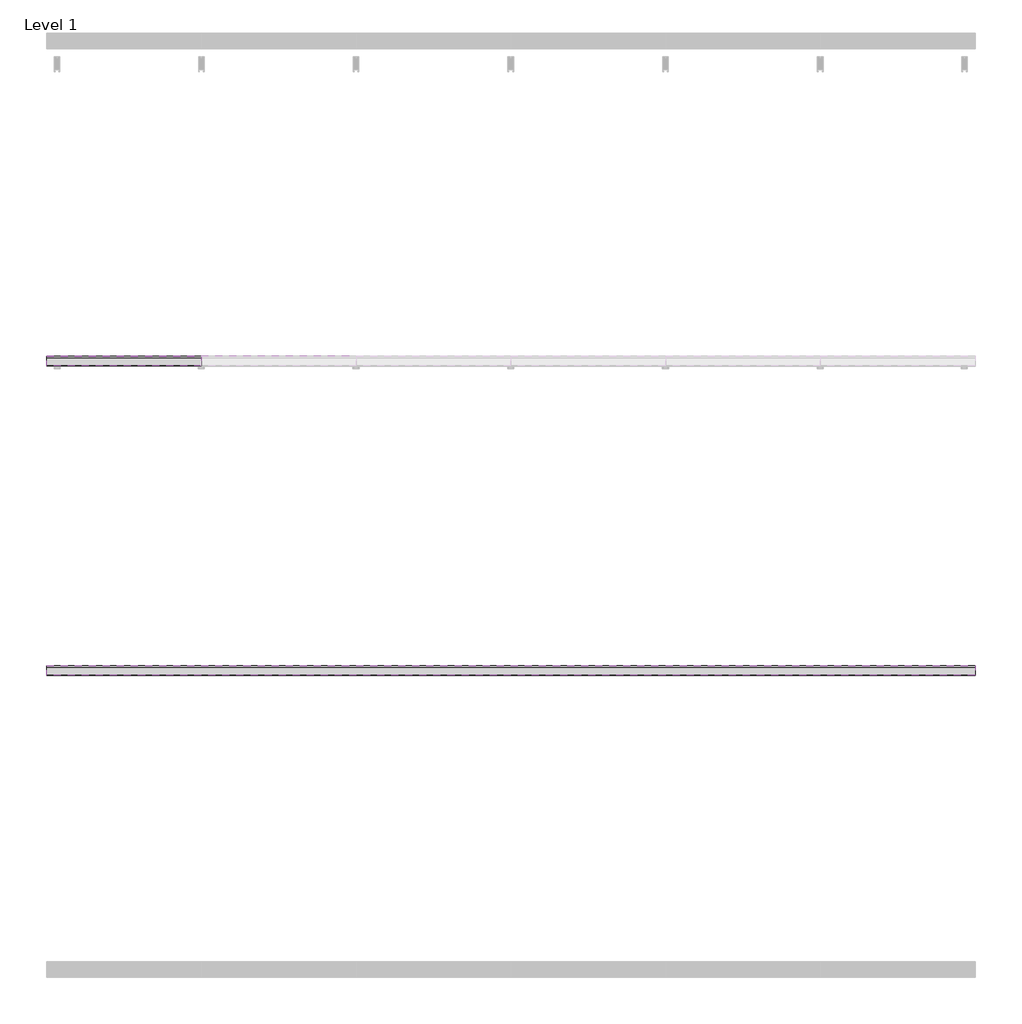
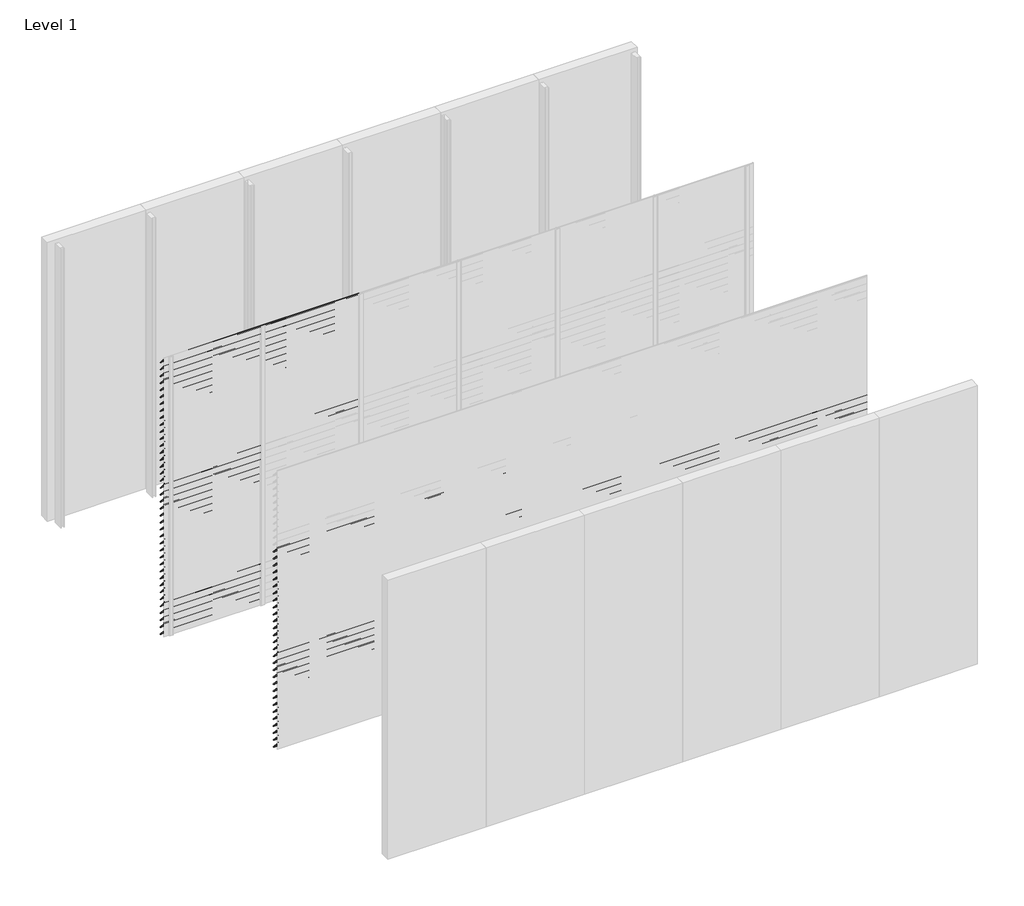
# One storey, part 20 of 35: 86 proxies.
"""IFC4 building model written with IfcOpenShell, lengths in millimetres."""

from ifc_helpers import new_model, si_unit, frame, origin, place, context, project, spatial, polyline, outline, extrude, element, save

model = new_model("IFC4")

# Units and contexts
model_context = context("Model", 3, world=origin())
ifc_project = project(units=[si_unit("LENGTHUNIT", "METRE", prefix="MILLI")], contexts=[model_context])

# Site, building, storey
site = spatial("IfcSite", under=ifc_project)
building = spatial("IfcBuilding", under=site)
storey = spatial("IfcBuildingStorey", under=building, Name="Level 1", Elevation=0.0)

# Proxies
placement = place(None, origin())
element("IfcBuildingElementProxy", 1, Name="Wall Sweeps", at=placement, inside=storey, context=model_context, shape_type="SweptSolid", body=[
    extrude(outline(polyline([(-23996.5, 3000.0), (-23996.5, 2985.5463701), (-23934.5, 2913.9330051), (-23934.5, 2910.4), (-23936.0, 2910.4), (-23936.0, 2913.3738975), (-23998.0, 2984.9872626), (-23998.0, 3000.0), (-23996.5, 3000.0)])), frame((0.0, 0.0, 0.0), z_axis=(1.0, 0.0, 0.0), x_axis=(0.0, 1.0, 0.0)), (0.0, 0.0, 1.0), 1000.0),
])
element("IfcBuildingElementProxy", 2, Name="Wall Sweeps", at=placement, inside=storey, context=model_context, shape_type="SweptSolid", body=[
    extrude(outline(polyline([(-23996.5, 2925.0), (-23996.5, 2910.5463701), (-23934.5, 2838.9330051), (-23934.5, 2835.4), (-23936.0, 2835.4), (-23936.0, 2838.3738975), (-23998.0, 2909.9872626), (-23998.0, 2925.0), (-23996.5, 2925.0)])), frame((0.0, 0.0, 0.0), z_axis=(1.0, 0.0, 0.0), x_axis=(0.0, 1.0, 0.0)), (0.0, 0.0, 1.0), 1000.0),
])
element("IfcBuildingElementProxy", 3, Name="Wall Sweeps", at=placement, inside=storey, context=model_context, shape_type="SweptSolid", body=[
    extrude(outline(polyline([(-23996.5, 2850.0), (-23996.5, 2835.5463701), (-23934.5, 2763.9330051), (-23934.5, 2760.4), (-23936.0, 2760.4), (-23936.0, 2763.3738975), (-23998.0, 2834.9872626), (-23998.0, 2850.0), (-23996.5, 2850.0)])), frame((0.0, 0.0, 0.0), z_axis=(1.0, 0.0, 0.0), x_axis=(0.0, 1.0, 0.0)), (0.0, 0.0, 1.0), 1000.0),
])
element("IfcBuildingElementProxy", 4, Name="Wall Sweeps", at=placement, inside=storey, context=model_context, shape_type="SweptSolid", body=[
    extrude(outline(polyline([(-23996.5, 2775.0), (-23996.5, 2760.5463701), (-23934.5, 2688.9330051), (-23934.5, 2685.4), (-23936.0, 2685.4), (-23936.0, 2688.3738975), (-23998.0, 2759.9872626), (-23998.0, 2775.0), (-23996.5, 2775.0)])), frame((0.0, 0.0, 0.0), z_axis=(1.0, 0.0, 0.0), x_axis=(0.0, 1.0, 0.0)), (0.0, 0.0, 1.0), 1000.0),
])
element("IfcBuildingElementProxy", 5, Name="Wall Sweeps", at=placement, inside=storey, context=model_context, shape_type="SweptSolid", body=[
    extrude(outline(polyline([(-23996.5, 2700.0), (-23996.5, 2685.5463701), (-23934.5, 2613.9330051), (-23934.5, 2610.4), (-23936.0, 2610.4), (-23936.0, 2613.3738975), (-23998.0, 2684.9872626), (-23998.0, 2700.0), (-23996.5, 2700.0)])), frame((0.0, 0.0, 0.0), z_axis=(1.0, 0.0, 0.0), x_axis=(0.0, 1.0, 0.0)), (0.0, 0.0, 1.0), 1000.0),
])
element("IfcBuildingElementProxy", 6, Name="Wall Sweeps", at=placement, inside=storey, context=model_context, shape_type="SweptSolid", body=[
    extrude(outline(polyline([(-23996.5, 2625.0), (-23996.5, 2610.5463701), (-23934.5, 2538.9330051), (-23934.5, 2535.4), (-23936.0, 2535.4), (-23936.0, 2538.3738975), (-23998.0, 2609.9872626), (-23998.0, 2625.0), (-23996.5, 2625.0)])), frame((0.0, 0.0, 0.0), z_axis=(1.0, 0.0, 0.0), x_axis=(0.0, 1.0, 0.0)), (0.0, 0.0, 1.0), 1000.0),
])
element("IfcBuildingElementProxy", 7, Name="Wall Sweeps", at=placement, inside=storey, context=model_context, shape_type="SweptSolid", body=[
    extrude(outline(polyline([(-23996.5, 2550.0), (-23996.5, 2535.5463701), (-23934.5, 2463.9330051), (-23934.5, 2460.4), (-23936.0, 2460.4), (-23936.0, 2463.3738975), (-23998.0, 2534.9872626), (-23998.0, 2550.0), (-23996.5, 2550.0)])), frame((0.0, 0.0, 0.0), z_axis=(1.0, 0.0, 0.0), x_axis=(0.0, 1.0, 0.0)), (0.0, 0.0, 1.0), 1000.0),
])
element("IfcBuildingElementProxy", 8, Name="Wall Sweeps", at=placement, inside=storey, context=model_context, shape_type="SweptSolid", body=[
    extrude(outline(polyline([(-23996.5, 2475.0), (-23996.5, 2460.5463701), (-23934.5, 2388.9330051), (-23934.5, 2385.4), (-23936.0, 2385.4), (-23936.0, 2388.3738975), (-23998.0, 2459.9872626), (-23998.0, 2475.0), (-23996.5, 2475.0)])), frame((0.0, 0.0, 0.0), z_axis=(1.0, 0.0, 0.0), x_axis=(0.0, 1.0, 0.0)), (0.0, 0.0, 1.0), 1000.0),
])
element("IfcBuildingElementProxy", 9, Name="Wall Sweeps", at=placement, inside=storey, context=model_context, shape_type="SweptSolid", body=[
    extrude(outline(polyline([(-23996.5, 2400.0), (-23996.5, 2385.5463701), (-23934.5, 2313.9330051), (-23934.5, 2310.4), (-23936.0, 2310.4), (-23936.0, 2313.3738975), (-23998.0, 2384.9872626), (-23998.0, 2400.0), (-23996.5, 2400.0)])), frame((0.0, 0.0, 0.0), z_axis=(1.0, 0.0, 0.0), x_axis=(0.0, 1.0, 0.0)), (0.0, 0.0, 1.0), 1000.0),
])
element("IfcBuildingElementProxy", 10, Name="Wall Sweeps", at=placement, inside=storey, context=model_context, shape_type="SweptSolid", body=[
    extrude(outline(polyline([(-23996.5, 2325.0), (-23996.5, 2310.5463701), (-23934.5, 2238.9330051), (-23934.5, 2235.4), (-23936.0, 2235.4), (-23936.0, 2238.3738975), (-23998.0, 2309.9872626), (-23998.0, 2325.0), (-23996.5, 2325.0)])), frame((0.0, 0.0, 0.0), z_axis=(1.0, 0.0, 0.0), x_axis=(0.0, 1.0, 0.0)), (0.0, 0.0, 1.0), 1000.0),
])
element("IfcBuildingElementProxy", 11, Name="Wall Sweeps", at=placement, inside=storey, context=model_context, shape_type="SweptSolid", body=[
    extrude(outline(polyline([(-23996.5, 2250.0), (-23996.5, 2235.5463701), (-23934.5, 2163.9330051), (-23934.5, 2160.4), (-23936.0, 2160.4), (-23936.0, 2163.3738975), (-23998.0, 2234.9872626), (-23998.0, 2250.0), (-23996.5, 2250.0)])), frame((0.0, 0.0, 0.0), z_axis=(1.0, 0.0, 0.0), x_axis=(0.0, 1.0, 0.0)), (0.0, 0.0, 1.0), 1000.0),
])
element("IfcBuildingElementProxy", 12, Name="Wall Sweeps", at=placement, inside=storey, context=model_context, shape_type="SweptSolid", body=[
    extrude(outline(polyline([(-23996.5, 2175.0), (-23996.5, 2160.5463701), (-23934.5, 2088.9330051), (-23934.5, 2085.4), (-23936.0, 2085.4), (-23936.0, 2088.3738975), (-23998.0, 2159.9872626), (-23998.0, 2175.0), (-23996.5, 2175.0)])), frame((0.0, 0.0, 0.0), z_axis=(1.0, 0.0, 0.0), x_axis=(0.0, 1.0, 0.0)), (0.0, 0.0, 1.0), 1000.0),
])
element("IfcBuildingElementProxy", 13, Name="Wall Sweeps", at=placement, inside=storey, context=model_context, shape_type="SweptSolid", body=[
    extrude(outline(polyline([(-23996.5, 2100.0), (-23996.5, 2085.5463701), (-23934.5, 2013.9330051), (-23934.5, 2010.4), (-23936.0, 2010.4), (-23936.0, 2013.3738975), (-23998.0, 2084.9872626), (-23998.0, 2100.0), (-23996.5, 2100.0)])), frame((0.0, 0.0, 0.0), z_axis=(1.0, 0.0, 0.0), x_axis=(0.0, 1.0, 0.0)), (0.0, 0.0, 1.0), 1000.0),
])
element("IfcBuildingElementProxy", 14, Name="Wall Sweeps", at=placement, inside=storey, context=model_context, shape_type="SweptSolid", body=[
    extrude(outline(polyline([(-23996.5, 2025.0), (-23996.5, 2010.5463701), (-23934.5, 1938.9330051), (-23934.5, 1935.4), (-23936.0, 1935.4), (-23936.0, 1938.3738975), (-23998.0, 2009.9872626), (-23998.0, 2025.0), (-23996.5, 2025.0)])), frame((0.0, 0.0, 0.0), z_axis=(1.0, 0.0, 0.0), x_axis=(0.0, 1.0, 0.0)), (0.0, 0.0, 1.0), 1000.0),
])
element("IfcBuildingElementProxy", 15, Name="Wall Sweeps", at=placement, inside=storey, context=model_context, shape_type="SweptSolid", body=[
    extrude(outline(polyline([(-23996.5, 1950.0), (-23996.5, 1935.5463701), (-23934.5, 1863.9330051), (-23934.5, 1860.4), (-23936.0, 1860.4), (-23936.0, 1863.3738975), (-23998.0, 1934.9872626), (-23998.0, 1950.0), (-23996.5, 1950.0)])), frame((0.0, 0.0, 0.0), z_axis=(1.0, 0.0, 0.0), x_axis=(0.0, 1.0, 0.0)), (0.0, 0.0, 1.0), 1000.0),
])
element("IfcBuildingElementProxy", 16, Name="Wall Sweeps", at=placement, inside=storey, context=model_context, shape_type="SweptSolid", body=[
    extrude(outline(polyline([(-23996.5, 1875.0), (-23996.5, 1860.5463701), (-23934.5, 1788.9330051), (-23934.5, 1785.4), (-23936.0, 1785.4), (-23936.0, 1788.3738975), (-23998.0, 1859.9872626), (-23998.0, 1875.0), (-23996.5, 1875.0)])), frame((0.0, 0.0, 0.0), z_axis=(1.0, 0.0, 0.0), x_axis=(0.0, 1.0, 0.0)), (0.0, 0.0, 1.0), 1000.0),
])
element("IfcBuildingElementProxy", 17, Name="Wall Sweeps", at=placement, inside=storey, context=model_context, shape_type="SweptSolid", body=[
    extrude(outline(polyline([(-23996.5, 1800.0), (-23996.5, 1785.5463701), (-23934.5, 1713.9330051), (-23934.5, 1710.4), (-23936.0, 1710.4), (-23936.0, 1713.3738975), (-23998.0, 1784.9872626), (-23998.0, 1800.0), (-23996.5, 1800.0)])), frame((0.0, 0.0, 0.0), z_axis=(1.0, 0.0, 0.0), x_axis=(0.0, 1.0, 0.0)), (0.0, 0.0, 1.0), 1000.0),
])
element("IfcBuildingElementProxy", 18, Name="Wall Sweeps", at=placement, inside=storey, context=model_context, shape_type="SweptSolid", body=[
    extrude(outline(polyline([(-23996.5, 1725.0), (-23996.5, 1710.5463701), (-23934.5, 1638.9330051), (-23934.5, 1635.4), (-23936.0, 1635.4), (-23936.0, 1638.3738975), (-23998.0, 1709.9872626), (-23998.0, 1725.0), (-23996.5, 1725.0)])), frame((0.0, 0.0, 0.0), z_axis=(1.0, 0.0, 0.0), x_axis=(0.0, 1.0, 0.0)), (0.0, 0.0, 1.0), 1000.0),
])
element("IfcBuildingElementProxy", 19, Name="Wall Sweeps", at=placement, inside=storey, context=model_context, shape_type="SweptSolid", body=[
    extrude(outline(polyline([(-23996.5, 1650.0), (-23996.5, 1635.5463701), (-23934.5, 1563.9330051), (-23934.5, 1560.4), (-23936.0, 1560.4), (-23936.0, 1563.3738975), (-23998.0, 1634.9872626), (-23998.0, 1650.0), (-23996.5, 1650.0)])), frame((0.0, 0.0, 0.0), z_axis=(1.0, 0.0, 0.0), x_axis=(0.0, 1.0, 0.0)), (0.0, 0.0, 1.0), 1000.0),
])
element("IfcBuildingElementProxy", 20, Name="Wall Sweeps", at=placement, inside=storey, context=model_context, shape_type="SweptSolid", body=[
    extrude(outline(polyline([(-23996.5, 1575.0), (-23996.5, 1560.5463701), (-23934.5, 1488.9330051), (-23934.5, 1485.4), (-23936.0, 1485.4), (-23936.0, 1488.3738975), (-23998.0, 1559.9872626), (-23998.0, 1575.0), (-23996.5, 1575.0)])), frame((0.0, 0.0, 0.0), z_axis=(1.0, 0.0, 0.0), x_axis=(0.0, 1.0, 0.0)), (0.0, 0.0, 1.0), 1000.0),
])
element("IfcBuildingElementProxy", 21, Name="Wall Sweeps", at=placement, inside=storey, context=model_context, shape_type="SweptSolid", body=[
    extrude(outline(polyline([(-23996.5, 1500.0), (-23996.5, 1485.5463701), (-23934.5, 1413.9330051), (-23934.5, 1410.4), (-23936.0, 1410.4), (-23936.0, 1413.3738975), (-23998.0, 1484.9872626), (-23998.0, 1500.0), (-23996.5, 1500.0)])), frame((0.0, 0.0, 0.0), z_axis=(1.0, 0.0, 0.0), x_axis=(0.0, 1.0, 0.0)), (0.0, 0.0, 1.0), 1000.0),
])
element("IfcBuildingElementProxy", 22, Name="Wall Sweeps", at=placement, inside=storey, context=model_context, shape_type="SweptSolid", body=[
    extrude(outline(polyline([(-23996.5, 1425.0), (-23996.5, 1410.5463701), (-23934.5, 1338.9330051), (-23934.5, 1335.4), (-23936.0, 1335.4), (-23936.0, 1338.3738975), (-23998.0, 1409.9872626), (-23998.0, 1425.0), (-23996.5, 1425.0)])), frame((0.0, 0.0, 0.0), z_axis=(1.0, 0.0, 0.0), x_axis=(0.0, 1.0, 0.0)), (0.0, 0.0, 1.0), 1000.0),
])
element("IfcBuildingElementProxy", 23, Name="Wall Sweeps", at=placement, inside=storey, context=model_context, shape_type="SweptSolid", body=[
    extrude(outline(polyline([(-23996.5, 1350.0), (-23996.5, 1335.5463701), (-23934.5, 1263.9330051), (-23934.5, 1260.4), (-23936.0, 1260.4), (-23936.0, 1263.3738975), (-23998.0, 1334.9872626), (-23998.0, 1350.0), (-23996.5, 1350.0)])), frame((0.0, 0.0, 0.0), z_axis=(1.0, 0.0, 0.0), x_axis=(0.0, 1.0, 0.0)), (0.0, 0.0, 1.0), 1000.0),
])
element("IfcBuildingElementProxy", 24, Name="Wall Sweeps", at=placement, inside=storey, context=model_context, shape_type="SweptSolid", body=[
    extrude(outline(polyline([(-23996.5, 1275.0), (-23996.5, 1260.5463701), (-23934.5, 1188.9330051), (-23934.5, 1185.4), (-23936.0, 1185.4), (-23936.0, 1188.3738975), (-23998.0, 1259.9872626), (-23998.0, 1275.0), (-23996.5, 1275.0)])), frame((0.0, 0.0, 0.0), z_axis=(1.0, 0.0, 0.0), x_axis=(0.0, 1.0, 0.0)), (0.0, 0.0, 1.0), 1000.0),
])
element("IfcBuildingElementProxy", 25, Name="Wall Sweeps", at=placement, inside=storey, context=model_context, shape_type="SweptSolid", body=[
    extrude(outline(polyline([(-23996.5, 1200.0), (-23996.5, 1185.5463701), (-23934.5, 1113.9330051), (-23934.5, 1110.4), (-23936.0, 1110.4), (-23936.0, 1113.3738975), (-23998.0, 1184.9872626), (-23998.0, 1200.0), (-23996.5, 1200.0)])), frame((0.0, 0.0, 0.0), z_axis=(1.0, 0.0, 0.0), x_axis=(0.0, 1.0, 0.0)), (0.0, 0.0, 1.0), 1000.0),
])
element("IfcBuildingElementProxy", 26, Name="Wall Sweeps", at=placement, inside=storey, context=model_context, shape_type="SweptSolid", body=[
    extrude(outline(polyline([(-23996.5, 1125.0), (-23996.5, 1110.5463701), (-23934.5, 1038.9330051), (-23934.5, 1035.4), (-23936.0, 1035.4), (-23936.0, 1038.3738975), (-23998.0, 1109.9872626), (-23998.0, 1125.0), (-23996.5, 1125.0)])), frame((0.0, 0.0, 0.0), z_axis=(1.0, 0.0, 0.0), x_axis=(0.0, 1.0, 0.0)), (0.0, 0.0, 1.0), 1000.0),
])
element("IfcBuildingElementProxy", 27, Name="Wall Sweeps", at=placement, inside=storey, context=model_context, shape_type="SweptSolid", body=[
    extrude(outline(polyline([(-23996.5, 1050.0), (-23996.5, 1035.5463701), (-23934.5, 963.9330051), (-23934.5, 960.4), (-23936.0, 960.4), (-23936.0, 963.3738975), (-23998.0, 1034.9872626), (-23998.0, 1050.0), (-23996.5, 1050.0)])), frame((0.0, 0.0, 0.0), z_axis=(1.0, 0.0, 0.0), x_axis=(0.0, 1.0, 0.0)), (0.0, 0.0, 1.0), 1000.0),
])
element("IfcBuildingElementProxy", 28, Name="Wall Sweeps", at=placement, inside=storey, context=model_context, shape_type="SweptSolid", body=[
    extrude(outline(polyline([(-23996.5, 975.0), (-23996.5, 960.5463701), (-23934.5, 888.9330051), (-23934.5, 885.4), (-23936.0, 885.4), (-23936.0, 888.3738975), (-23998.0, 959.9872626), (-23998.0, 975.0), (-23996.5, 975.0)])), frame((0.0, 0.0, 0.0), z_axis=(1.0, 0.0, 0.0), x_axis=(0.0, 1.0, 0.0)), (0.0, 0.0, 1.0), 1000.0),
])
element("IfcBuildingElementProxy", 29, Name="Wall Sweeps", at=placement, inside=storey, context=model_context, shape_type="SweptSolid", body=[
    extrude(outline(polyline([(-23996.5, 900.0), (-23996.5, 885.5463701), (-23934.5, 813.9330051), (-23934.5, 810.4), (-23936.0, 810.4), (-23936.0, 813.3738975), (-23998.0, 884.9872626), (-23998.0, 900.0), (-23996.5, 900.0)])), frame((0.0, 0.0, 0.0), z_axis=(1.0, 0.0, 0.0), x_axis=(0.0, 1.0, 0.0)), (0.0, 0.0, 1.0), 1000.0),
])
element("IfcBuildingElementProxy", 30, Name="Wall Sweeps", at=placement, inside=storey, context=model_context, shape_type="SweptSolid", body=[
    extrude(outline(polyline([(-23996.5, 825.0), (-23996.5, 810.5463701), (-23934.5, 738.9330051), (-23934.5, 735.4), (-23936.0, 735.4), (-23936.0, 738.3738975), (-23998.0, 809.9872626), (-23998.0, 825.0), (-23996.5, 825.0)])), frame((0.0, 0.0, 0.0), z_axis=(1.0, 0.0, 0.0), x_axis=(0.0, 1.0, 0.0)), (0.0, 0.0, 1.0), 1000.0),
])
element("IfcBuildingElementProxy", 31, Name="Wall Sweeps", at=placement, inside=storey, context=model_context, shape_type="SweptSolid", body=[
    extrude(outline(polyline([(-23996.5, 750.0), (-23996.5, 735.5463701), (-23934.5, 663.9330051), (-23934.5, 660.4), (-23936.0, 660.4), (-23936.0, 663.3738975), (-23998.0, 734.9872626), (-23998.0, 750.0), (-23996.5, 750.0)])), frame((0.0, 0.0, 0.0), z_axis=(1.0, 0.0, 0.0), x_axis=(0.0, 1.0, 0.0)), (0.0, 0.0, 1.0), 1000.0),
])
element("IfcBuildingElementProxy", 32, Name="Wall Sweeps", at=placement, inside=storey, context=model_context, shape_type="SweptSolid", body=[
    extrude(outline(polyline([(-23996.5, 675.0), (-23996.5, 660.5463701), (-23934.5, 588.9330051), (-23934.5, 585.4), (-23936.0, 585.4), (-23936.0, 588.3738975), (-23998.0, 659.9872626), (-23998.0, 675.0), (-23996.5, 675.0)])), frame((0.0, 0.0, 0.0), z_axis=(1.0, 0.0, 0.0), x_axis=(0.0, 1.0, 0.0)), (0.0, 0.0, 1.0), 1000.0),
])
element("IfcBuildingElementProxy", 33, Name="Wall Sweeps", at=placement, inside=storey, context=model_context, shape_type="SweptSolid", body=[
    extrude(outline(polyline([(-23996.5, 600.0), (-23996.5, 585.5463701), (-23934.5, 513.9330051), (-23934.5, 510.4), (-23936.0, 510.4), (-23936.0, 513.3738975), (-23998.0, 584.9872626), (-23998.0, 600.0), (-23996.5, 600.0)])), frame((0.0, 0.0, 0.0), z_axis=(1.0, 0.0, 0.0), x_axis=(0.0, 1.0, 0.0)), (0.0, 0.0, 1.0), 1000.0),
])
element("IfcBuildingElementProxy", 34, Name="Wall Sweeps", at=placement, inside=storey, context=model_context, shape_type="SweptSolid", body=[
    extrude(outline(polyline([(-23996.5, 525.0), (-23996.5, 510.5463701), (-23934.5, 438.9330051), (-23934.5, 435.4), (-23936.0, 435.4), (-23936.0, 438.3738975), (-23998.0, 509.9872626), (-23998.0, 525.0), (-23996.5, 525.0)])), frame((0.0, 0.0, 0.0), z_axis=(1.0, 0.0, 0.0), x_axis=(0.0, 1.0, 0.0)), (0.0, 0.0, 1.0), 1000.0),
])
element("IfcBuildingElementProxy", 35, Name="Wall Sweeps", at=placement, inside=storey, context=model_context, shape_type="SweptSolid", body=[
    extrude(outline(polyline([(-23996.5, 450.0), (-23996.5, 435.5463701), (-23934.5, 363.9330051), (-23934.5, 360.4), (-23936.0, 360.4), (-23936.0, 363.3738975), (-23998.0, 434.9872626), (-23998.0, 450.0), (-23996.5, 450.0)])), frame((0.0, 0.0, 0.0), z_axis=(1.0, 0.0, 0.0), x_axis=(0.0, 1.0, 0.0)), (0.0, 0.0, 1.0), 1000.0),
])
element("IfcBuildingElementProxy", 36, Name="Wall Sweeps", at=placement, inside=storey, context=model_context, shape_type="SweptSolid", body=[
    extrude(outline(polyline([(-23996.5, 375.0), (-23996.5, 360.5463701), (-23934.5, 288.9330051), (-23934.5, 285.4), (-23936.0, 285.4), (-23936.0, 288.3738975), (-23998.0, 359.9872626), (-23998.0, 375.0), (-23996.5, 375.0)])), frame((0.0, 0.0, 0.0), z_axis=(1.0, 0.0, 0.0), x_axis=(0.0, 1.0, 0.0)), (0.0, 0.0, 1.0), 1000.0),
])
element("IfcBuildingElementProxy", 37, Name="Wall Sweeps", at=placement, inside=storey, context=model_context, shape_type="SweptSolid", body=[
    extrude(outline(polyline([(-23996.5, 300.0), (-23996.5, 285.5463701), (-23934.5, 213.9330051), (-23934.5, 210.4), (-23936.0, 210.4), (-23936.0, 213.3738975), (-23998.0, 284.9872626), (-23998.0, 300.0), (-23996.5, 300.0)])), frame((0.0, 0.0, 0.0), z_axis=(1.0, 0.0, 0.0), x_axis=(0.0, 1.0, 0.0)), (0.0, 0.0, 1.0), 1000.0),
])
element("IfcBuildingElementProxy", 38, Name="Wall Sweeps", at=placement, inside=storey, context=model_context, shape_type="SweptSolid", body=[
    extrude(outline(polyline([(-23996.5, 225.0), (-23996.5, 210.5463701), (-23934.5, 138.9330051), (-23934.5, 135.4), (-23936.0, 135.4), (-23936.0, 138.3738975), (-23998.0, 209.9872626), (-23998.0, 225.0), (-23996.5, 225.0)])), frame((0.0, 0.0, 0.0), z_axis=(1.0, 0.0, 0.0), x_axis=(0.0, 1.0, 0.0)), (0.0, 0.0, 1.0), 1000.0),
])
element("IfcBuildingElementProxy", 39, Name="Wall Sweeps", at=placement, inside=storey, context=model_context, shape_type="SweptSolid", body=[
    extrude(outline(polyline([(-23996.5, 150.0), (-23996.5, 135.5463701), (-23934.5, 63.9330051), (-23934.5, 60.4), (-23936.0, 60.4), (-23936.0, 63.3738975), (-23998.0, 134.9872626), (-23998.0, 150.0), (-23996.5, 150.0)])), frame((0.0, 0.0, 0.0), z_axis=(1.0, 0.0, 0.0), x_axis=(0.0, 1.0, 0.0)), (0.0, 0.0, 1.0), 1000.0),
])
element("IfcBuildingElementProxy", 40, Name="Wall Sweeps", at=placement, inside=storey, context=model_context, shape_type="SweptSolid", body=[
    extrude(outline(polyline([(-23996.5, 75.0), (-23996.5, 60.5463701), (-23934.5, -11.0669949), (-23934.5, -14.6), (-23936.0, -14.6), (-23936.0, -11.6261025), (-23998.0, 59.9872626), (-23998.0, 75.0), (-23996.5, 75.0)])), frame((0.0, 0.0, 0.0), z_axis=(1.0, 0.0, 0.0), x_axis=(0.0, 1.0, 0.0)), (0.0, 0.0, 1.0), 1000.0),
])
element("IfcBuildingElementProxy", 41, Name="Wall Sweeps", at=placement, inside=storey, context=model_context, shape_type="SweptSolid", body=[
    extrude(outline(polyline([(-23996.5, 3000.0), (-23996.5, 2985.5463701), (-23934.5, 2913.9330051), (-23934.5, 2910.4), (-23936.0, 2910.4), (-23936.0, 2913.3738975), (-23998.0, 2984.9872626), (-23998.0, 3000.0), (-23996.5, 3000.0)])), frame((1000.0, 0.0, 0.0), z_axis=(1.0, 0.0, 0.0), x_axis=(0.0, 1.0, 0.0)), (0.0, 0.0, 1.0), 1000.0),
])
element("IfcBuildingElementProxy", 42, Name="Wall Sweeps", at=placement, inside=storey, context=model_context, shape_type="SweptSolid", body=[
    extrude(outline(polyline([(-23996.5, 2925.0), (-23996.5, 2910.5463701), (-23934.5, 2838.9330051), (-23934.5, 2835.4), (-23936.0, 2835.4), (-23936.0, 2838.3738975), (-23998.0, 2909.9872626), (-23998.0, 2925.0), (-23996.5, 2925.0)])), frame((1000.0, 0.0, 0.0), z_axis=(1.0, 0.0, 0.0), x_axis=(0.0, 1.0, 0.0)), (0.0, 0.0, 1.0), 1000.0),
])
element("IfcBuildingElementProxy", 43, Name="Wall Sweeps", at=placement, inside=storey, context=model_context, shape_type="SweptSolid", body=[
    extrude(outline(polyline([(-23996.5, 2850.0), (-23996.5, 2835.5463701), (-23934.5, 2763.9330051), (-23934.5, 2760.4), (-23936.0, 2760.4), (-23936.0, 2763.3738975), (-23998.0, 2834.9872626), (-23998.0, 2850.0), (-23996.5, 2850.0)])), frame((1000.0, 0.0, 0.0), z_axis=(1.0, 0.0, 0.0), x_axis=(0.0, 1.0, 0.0)), (0.0, 0.0, 1.0), 1000.0),
])
element("IfcBuildingElementProxy", 44, Name="Wall Sweeps", at=placement, inside=storey, context=model_context, shape_type="SweptSolid", body=[
    extrude(outline(polyline([(-23996.5, 2775.0), (-23996.5, 2760.5463701), (-23934.5, 2688.9330051), (-23934.5, 2685.4), (-23936.0, 2685.4), (-23936.0, 2688.3738975), (-23998.0, 2759.9872626), (-23998.0, 2775.0), (-23996.5, 2775.0)])), frame((1000.0, 0.0, 0.0), z_axis=(1.0, 0.0, 0.0), x_axis=(0.0, 1.0, 0.0)), (0.0, 0.0, 1.0), 1000.0),
])
element("IfcBuildingElementProxy", 45, Name="Wall Sweeps", at=placement, inside=storey, context=model_context, shape_type="SweptSolid", body=[
    extrude(outline(polyline([(-23996.5, 2700.0), (-23996.5, 2685.5463701), (-23934.5, 2613.9330051), (-23934.5, 2610.4), (-23936.0, 2610.4), (-23936.0, 2613.3738975), (-23998.0, 2684.9872626), (-23998.0, 2700.0), (-23996.5, 2700.0)])), frame((1000.0, 0.0, 0.0), z_axis=(1.0, 0.0, 0.0), x_axis=(0.0, 1.0, 0.0)), (0.0, 0.0, 1.0), 1000.0),
])
element("IfcBuildingElementProxy", 46, Name="Wall Sweeps", at=placement, inside=storey, context=model_context, shape_type="SweptSolid", body=[
    extrude(outline(polyline([(-23996.5, 2625.0), (-23996.5, 2610.5463701), (-23934.5, 2538.9330051), (-23934.5, 2535.4), (-23936.0, 2535.4), (-23936.0, 2538.3738975), (-23998.0, 2609.9872626), (-23998.0, 2625.0), (-23996.5, 2625.0)])), frame((1000.0, 0.0, 0.0), z_axis=(1.0, 0.0, 0.0), x_axis=(0.0, 1.0, 0.0)), (0.0, 0.0, 1.0), 1000.0),
])
element("IfcBuildingElementProxy", 47, Name="Wall Sweeps", at=placement, inside=storey, context=model_context, shape_type="SweptSolid", body=[
    extrude(outline(polyline([(-23996.5, 2550.0), (-23996.5, 2535.5463701), (-23934.5, 2463.9330051), (-23934.5, 2460.4), (-23936.0, 2460.4), (-23936.0, 2463.3738975), (-23998.0, 2534.9872626), (-23998.0, 2550.0), (-23996.5, 2550.0)])), frame((1000.0, 0.0, 0.0), z_axis=(1.0, 0.0, 0.0), x_axis=(0.0, 1.0, 0.0)), (0.0, 0.0, 1.0), 1000.0),
])
element("IfcBuildingElementProxy", 48, Name="Wall Sweeps", at=placement, inside=storey, context=model_context, shape_type="SweptSolid", body=[
    extrude(outline(polyline([(-23996.5, 2475.0), (-23996.5, 2460.5463701), (-23934.5, 2388.9330051), (-23934.5, 2385.4), (-23936.0, 2385.4), (-23936.0, 2388.3738975), (-23998.0, 2459.9872626), (-23998.0, 2475.0), (-23996.5, 2475.0)])), frame((1000.0, 0.0, 0.0), z_axis=(1.0, 0.0, 0.0), x_axis=(0.0, 1.0, 0.0)), (0.0, 0.0, 1.0), 1000.0),
])
element("IfcBuildingElementProxy", 49, Name="Wall Sweeps", at=placement, inside=storey, context=model_context, shape_type="SweptSolid", body=[
    extrude(outline(polyline([(-23996.5, 2400.0), (-23996.5, 2385.5463701), (-23934.5, 2313.9330051), (-23934.5, 2310.4), (-23936.0, 2310.4), (-23936.0, 2313.3738975), (-23998.0, 2384.9872626), (-23998.0, 2400.0), (-23996.5, 2400.0)])), frame((1000.0, 0.0, 0.0), z_axis=(1.0, 0.0, 0.0), x_axis=(0.0, 1.0, 0.0)), (0.0, 0.0, 1.0), 1000.0),
])
element("IfcBuildingElementProxy", 50, Name="Wall Sweeps", at=placement, inside=storey, context=model_context, shape_type="SweptSolid", body=[
    extrude(outline(polyline([(-23996.5, 2325.0), (-23996.5, 2310.5463701), (-23934.5, 2238.9330051), (-23934.5, 2235.4), (-23936.0, 2235.4), (-23936.0, 2238.3738975), (-23998.0, 2309.9872626), (-23998.0, 2325.0), (-23996.5, 2325.0)])), frame((1000.0, 0.0, 0.0), z_axis=(1.0, 0.0, 0.0), x_axis=(0.0, 1.0, 0.0)), (0.0, 0.0, 1.0), 1000.0),
])
element("IfcBuildingElementProxy", 51, Name="Wall Sweeps", at=placement, inside=storey, context=model_context, shape_type="SweptSolid", body=[
    extrude(outline(polyline([(-23996.5, 2250.0), (-23996.5, 2235.5463701), (-23934.5, 2163.9330051), (-23934.5, 2160.4), (-23936.0, 2160.4), (-23936.0, 2163.3738975), (-23998.0, 2234.9872626), (-23998.0, 2250.0), (-23996.5, 2250.0)])), frame((1000.0, 0.0, 0.0), z_axis=(1.0, 0.0, 0.0), x_axis=(0.0, 1.0, 0.0)), (0.0, 0.0, 1.0), 1000.0),
])
element("IfcBuildingElementProxy", 52, Name="Wall Sweeps", at=placement, inside=storey, context=model_context, shape_type="SweptSolid", body=[
    extrude(outline(polyline([(-23996.5, 2175.0), (-23996.5, 2160.5463701), (-23934.5, 2088.9330051), (-23934.5, 2085.4), (-23936.0, 2085.4), (-23936.0, 2088.3738975), (-23998.0, 2159.9872626), (-23998.0, 2175.0), (-23996.5, 2175.0)])), frame((1000.0, 0.0, 0.0), z_axis=(1.0, 0.0, 0.0), x_axis=(0.0, 1.0, 0.0)), (0.0, 0.0, 1.0), 1000.0),
])
element("IfcBuildingElementProxy", 53, Name="Wall Sweeps", at=placement, inside=storey, context=model_context, shape_type="SweptSolid", body=[
    extrude(outline(polyline([(-23996.5, 2100.0), (-23996.5, 2085.5463701), (-23934.5, 2013.9330051), (-23934.5, 2010.4), (-23936.0, 2010.4), (-23936.0, 2013.3738975), (-23998.0, 2084.9872626), (-23998.0, 2100.0), (-23996.5, 2100.0)])), frame((1000.0, 0.0, 0.0), z_axis=(1.0, 0.0, 0.0), x_axis=(0.0, 1.0, 0.0)), (0.0, 0.0, 1.0), 1000.0),
])
element("IfcBuildingElementProxy", 54, Name="Wall Sweeps", at=placement, inside=storey, context=model_context, shape_type="SweptSolid", body=[
    extrude(outline(polyline([(-23996.5, 2025.0), (-23996.5, 2010.5463701), (-23934.5, 1938.9330051), (-23934.5, 1935.4), (-23936.0, 1935.4), (-23936.0, 1938.3738975), (-23998.0, 2009.9872626), (-23998.0, 2025.0), (-23996.5, 2025.0)])), frame((1000.0, 0.0, 0.0), z_axis=(1.0, 0.0, 0.0), x_axis=(0.0, 1.0, 0.0)), (0.0, 0.0, 1.0), 1000.0),
])
element("IfcBuildingElementProxy", 55, Name="Wall Sweeps", at=placement, inside=storey, context=model_context, shape_type="SweptSolid", body=[
    extrude(outline(polyline([(-23996.5, 1950.0), (-23996.5, 1935.5463701), (-23934.5, 1863.9330051), (-23934.5, 1860.4), (-23936.0, 1860.4), (-23936.0, 1863.3738975), (-23998.0, 1934.9872626), (-23998.0, 1950.0), (-23996.5, 1950.0)])), frame((1000.0, 0.0, 0.0), z_axis=(1.0, 0.0, 0.0), x_axis=(0.0, 1.0, 0.0)), (0.0, 0.0, 1.0), 1000.0),
])
element("IfcBuildingElementProxy", 56, Name="Wall Sweeps", at=placement, inside=storey, context=model_context, shape_type="SweptSolid", body=[
    extrude(outline(polyline([(-23996.5, 1875.0), (-23996.5, 1860.5463701), (-23934.5, 1788.9330051), (-23934.5, 1785.4), (-23936.0, 1785.4), (-23936.0, 1788.3738975), (-23998.0, 1859.9872626), (-23998.0, 1875.0), (-23996.5, 1875.0)])), frame((1000.0, 0.0, 0.0), z_axis=(1.0, 0.0, 0.0), x_axis=(0.0, 1.0, 0.0)), (0.0, 0.0, 1.0), 1000.0),
])
element("IfcBuildingElementProxy", 57, Name="Wall Sweeps", at=placement, inside=storey, context=model_context, shape_type="SweptSolid", body=[
    extrude(outline(polyline([(-23996.5, 1800.0), (-23996.5, 1785.5463701), (-23934.5, 1713.9330051), (-23934.5, 1710.4), (-23936.0, 1710.4), (-23936.0, 1713.3738975), (-23998.0, 1784.9872626), (-23998.0, 1800.0), (-23996.5, 1800.0)])), frame((1000.0, 0.0, 0.0), z_axis=(1.0, 0.0, 0.0), x_axis=(0.0, 1.0, 0.0)), (0.0, 0.0, 1.0), 1000.0),
])
element("IfcBuildingElementProxy", 58, Name="Wall Sweeps", at=placement, inside=storey, context=model_context, shape_type="SweptSolid", body=[
    extrude(outline(polyline([(-25996.5, 2175.0), (-25996.5, 2160.5463701), (-25934.5, 2088.9330051), (-25934.5, 2085.4), (-25936.0, 2085.4), (-25936.0, 2088.3738975), (-25998.0, 2159.9872626), (-25998.0, 2175.0), (-25996.5, 2175.0)])), frame((0.0, 0.0, 0.0), z_axis=(1.0, 0.0, 0.0), x_axis=(0.0, 1.0, 0.0)), (0.0, 0.0, 1.0), 6000.0),
])
element("IfcBuildingElementProxy", 59, Name="Wall Sweeps", at=placement, inside=storey, context=model_context, shape_type="SweptSolid", body=[
    extrude(outline(polyline([(-25996.5, 2100.0), (-25996.5, 2085.5463701), (-25934.5, 2013.9330051), (-25934.5, 2010.4), (-25936.0, 2010.4), (-25936.0, 2013.3738975), (-25998.0, 2084.9872626), (-25998.0, 2100.0), (-25996.5, 2100.0)])), frame((0.0, 0.0, 0.0), z_axis=(1.0, 0.0, 0.0), x_axis=(0.0, 1.0, 0.0)), (0.0, 0.0, 1.0), 6000.0),
])
element("IfcBuildingElementProxy", 60, Name="Wall Sweeps", at=placement, inside=storey, context=model_context, shape_type="SweptSolid", body=[
    extrude(outline(polyline([(-25996.5, 2025.0), (-25996.5, 2010.5463701), (-25934.5, 1938.9330051), (-25934.5, 1935.4), (-25936.0, 1935.4), (-25936.0, 1938.3738975), (-25998.0, 2009.9872626), (-25998.0, 2025.0), (-25996.5, 2025.0)])), frame((0.0, 0.0, 0.0), z_axis=(1.0, 0.0, 0.0), x_axis=(0.0, 1.0, 0.0)), (0.0, 0.0, 1.0), 6000.0),
])
element("IfcBuildingElementProxy", 61, Name="Wall Sweeps", at=placement, inside=storey, context=model_context, shape_type="SweptSolid", body=[
    extrude(outline(polyline([(-25996.5, 1950.0), (-25996.5, 1935.5463701), (-25934.5, 1863.9330051), (-25934.5, 1860.4), (-25936.0, 1860.4), (-25936.0, 1863.3738975), (-25998.0, 1934.9872626), (-25998.0, 1950.0), (-25996.5, 1950.0)])), frame((0.0, 0.0, 0.0), z_axis=(1.0, 0.0, 0.0), x_axis=(0.0, 1.0, 0.0)), (0.0, 0.0, 1.0), 6000.0),
])
element("IfcBuildingElementProxy", 62, Name="Wall Sweeps", at=placement, inside=storey, context=model_context, shape_type="SweptSolid", body=[
    extrude(outline(polyline([(-25996.5, 1875.0), (-25996.5, 1860.5463701), (-25934.5, 1788.9330051), (-25934.5, 1785.4), (-25936.0, 1785.4), (-25936.0, 1788.3738975), (-25998.0, 1859.9872626), (-25998.0, 1875.0), (-25996.5, 1875.0)])), frame((0.0, 0.0, 0.0), z_axis=(1.0, 0.0, 0.0), x_axis=(0.0, 1.0, 0.0)), (0.0, 0.0, 1.0), 6000.0),
])
element("IfcBuildingElementProxy", 63, Name="Wall Sweeps", at=placement, inside=storey, context=model_context, shape_type="SweptSolid", body=[
    extrude(outline(polyline([(-25996.5, 1800.0), (-25996.5, 1785.5463701), (-25934.5, 1713.9330051), (-25934.5, 1710.4), (-25936.0, 1710.4), (-25936.0, 1713.3738975), (-25998.0, 1784.9872626), (-25998.0, 1800.0), (-25996.5, 1800.0)])), frame((0.0, 0.0, 0.0), z_axis=(1.0, 0.0, 0.0), x_axis=(0.0, 1.0, 0.0)), (0.0, 0.0, 1.0), 6000.0),
])
element("IfcBuildingElementProxy", 64, Name="Wall Sweeps", at=placement, inside=storey, context=model_context, shape_type="SweptSolid", body=[
    extrude(outline(polyline([(-25996.5, 1725.0), (-25996.5, 1710.5463701), (-25934.5, 1638.9330051), (-25934.5, 1635.4), (-25936.0, 1635.4), (-25936.0, 1638.3738975), (-25998.0, 1709.9872626), (-25998.0, 1725.0), (-25996.5, 1725.0)])), frame((0.0, 0.0, 0.0), z_axis=(1.0, 0.0, 0.0), x_axis=(0.0, 1.0, 0.0)), (0.0, 0.0, 1.0), 6000.0),
])
element("IfcBuildingElementProxy", 65, Name="Wall Sweeps", at=placement, inside=storey, context=model_context, shape_type="SweptSolid", body=[
    extrude(outline(polyline([(-25996.5, 1650.0), (-25996.5, 1635.5463701), (-25934.5, 1563.9330051), (-25934.5, 1560.4), (-25936.0, 1560.4), (-25936.0, 1563.3738975), (-25998.0, 1634.9872626), (-25998.0, 1650.0), (-25996.5, 1650.0)])), frame((0.0, 0.0, 0.0), z_axis=(1.0, 0.0, 0.0), x_axis=(0.0, 1.0, 0.0)), (0.0, 0.0, 1.0), 6000.0),
])
element("IfcBuildingElementProxy", 66, Name="Wall Sweeps", at=placement, inside=storey, context=model_context, shape_type="SweptSolid", body=[
    extrude(outline(polyline([(-25996.5, 1575.0), (-25996.5, 1560.5463701), (-25934.5, 1488.9330051), (-25934.5, 1485.4), (-25936.0, 1485.4), (-25936.0, 1488.3738975), (-25998.0, 1559.9872626), (-25998.0, 1575.0), (-25996.5, 1575.0)])), frame((0.0, 0.0, 0.0), z_axis=(1.0, 0.0, 0.0), x_axis=(0.0, 1.0, 0.0)), (0.0, 0.0, 1.0), 6000.0),
])
element("IfcBuildingElementProxy", 67, Name="Wall Sweeps", at=placement, inside=storey, context=model_context, shape_type="SweptSolid", body=[
    extrude(outline(polyline([(-25996.5, 1500.0), (-25996.5, 1485.5463701), (-25934.5, 1413.9330051), (-25934.5, 1410.4), (-25936.0, 1410.4), (-25936.0, 1413.3738975), (-25998.0, 1484.9872626), (-25998.0, 1500.0), (-25996.5, 1500.0)])), frame((0.0, 0.0, 0.0), z_axis=(1.0, 0.0, 0.0), x_axis=(0.0, 1.0, 0.0)), (0.0, 0.0, 1.0), 6000.0),
])
element("IfcBuildingElementProxy", 68, Name="Wall Sweeps", at=placement, inside=storey, context=model_context, shape_type="SweptSolid", body=[
    extrude(outline(polyline([(-25996.5, 1425.0), (-25996.5, 1410.5463701), (-25934.5, 1338.9330051), (-25934.5, 1335.4), (-25936.0, 1335.4), (-25936.0, 1338.3738975), (-25998.0, 1409.9872626), (-25998.0, 1425.0), (-25996.5, 1425.0)])), frame((0.0, 0.0, 0.0), z_axis=(1.0, 0.0, 0.0), x_axis=(0.0, 1.0, 0.0)), (0.0, 0.0, 1.0), 6000.0),
])
element("IfcBuildingElementProxy", 69, Name="Wall Sweeps", at=placement, inside=storey, context=model_context, shape_type="SweptSolid", body=[
    extrude(outline(polyline([(-25996.5, 1350.0), (-25996.5, 1335.5463701), (-25934.5, 1263.9330051), (-25934.5, 1260.4), (-25936.0, 1260.4), (-25936.0, 1263.3738975), (-25998.0, 1334.9872626), (-25998.0, 1350.0), (-25996.5, 1350.0)])), frame((0.0, 0.0, 0.0), z_axis=(1.0, 0.0, 0.0), x_axis=(0.0, 1.0, 0.0)), (0.0, 0.0, 1.0), 6000.0),
])
element("IfcBuildingElementProxy", 70, Name="Wall Sweeps", at=placement, inside=storey, context=model_context, shape_type="SweptSolid", body=[
    extrude(outline(polyline([(-25996.5, 1275.0), (-25996.5, 1260.5463701), (-25934.5, 1188.9330051), (-25934.5, 1185.4), (-25936.0, 1185.4), (-25936.0, 1188.3738975), (-25998.0, 1259.9872626), (-25998.0, 1275.0), (-25996.5, 1275.0)])), frame((0.0, 0.0, 0.0), z_axis=(1.0, 0.0, 0.0), x_axis=(0.0, 1.0, 0.0)), (0.0, 0.0, 1.0), 6000.0),
])
element("IfcBuildingElementProxy", 71, Name="Wall Sweeps", at=placement, inside=storey, context=model_context, shape_type="SweptSolid", body=[
    extrude(outline(polyline([(-25996.5, 1200.0), (-25996.5, 1185.5463701), (-25934.5, 1113.9330051), (-25934.5, 1110.4), (-25936.0, 1110.4), (-25936.0, 1113.3738975), (-25998.0, 1184.9872626), (-25998.0, 1200.0), (-25996.5, 1200.0)])), frame((0.0, 0.0, 0.0), z_axis=(1.0, 0.0, 0.0), x_axis=(0.0, 1.0, 0.0)), (0.0, 0.0, 1.0), 6000.0),
])
element("IfcBuildingElementProxy", 72, Name="Wall Sweeps", at=placement, inside=storey, context=model_context, shape_type="SweptSolid", body=[
    extrude(outline(polyline([(-25996.5, 1125.0), (-25996.5, 1110.5463701), (-25934.5, 1038.9330051), (-25934.5, 1035.4), (-25936.0, 1035.4), (-25936.0, 1038.3738975), (-25998.0, 1109.9872626), (-25998.0, 1125.0), (-25996.5, 1125.0)])), frame((0.0, 0.0, 0.0), z_axis=(1.0, 0.0, 0.0), x_axis=(0.0, 1.0, 0.0)), (0.0, 0.0, 1.0), 6000.0),
])
element("IfcBuildingElementProxy", 73, Name="Wall Sweeps", at=placement, inside=storey, context=model_context, shape_type="SweptSolid", body=[
    extrude(outline(polyline([(-25996.5, 1050.0), (-25996.5, 1035.5463701), (-25934.5, 963.9330051), (-25934.5, 960.4), (-25936.0, 960.4), (-25936.0, 963.3738975), (-25998.0, 1034.9872626), (-25998.0, 1050.0), (-25996.5, 1050.0)])), frame((0.0, 0.0, 0.0), z_axis=(1.0, 0.0, 0.0), x_axis=(0.0, 1.0, 0.0)), (0.0, 0.0, 1.0), 6000.0),
])
element("IfcBuildingElementProxy", 74, Name="Wall Sweeps", at=placement, inside=storey, context=model_context, shape_type="SweptSolid", body=[
    extrude(outline(polyline([(-25996.5, 975.0), (-25996.5, 960.5463701), (-25934.5, 888.9330051), (-25934.5, 885.4), (-25936.0, 885.4), (-25936.0, 888.3738975), (-25998.0, 959.9872626), (-25998.0, 975.0), (-25996.5, 975.0)])), frame((0.0, 0.0, 0.0), z_axis=(1.0, 0.0, 0.0), x_axis=(0.0, 1.0, 0.0)), (0.0, 0.0, 1.0), 6000.0),
])
element("IfcBuildingElementProxy", 75, Name="Wall Sweeps", at=placement, inside=storey, context=model_context, shape_type="SweptSolid", body=[
    extrude(outline(polyline([(-25996.5, 900.0), (-25996.5, 885.5463701), (-25934.5, 813.9330051), (-25934.5, 810.4), (-25936.0, 810.4), (-25936.0, 813.3738975), (-25998.0, 884.9872626), (-25998.0, 900.0), (-25996.5, 900.0)])), frame((0.0, 0.0, 0.0), z_axis=(1.0, 0.0, 0.0), x_axis=(0.0, 1.0, 0.0)), (0.0, 0.0, 1.0), 6000.0),
])
element("IfcBuildingElementProxy", 76, Name="Wall Sweeps", at=placement, inside=storey, context=model_context, shape_type="SweptSolid", body=[
    extrude(outline(polyline([(-25996.5, 825.0), (-25996.5, 810.5463701), (-25934.5, 738.9330051), (-25934.5, 735.4), (-25936.0, 735.4), (-25936.0, 738.3738975), (-25998.0, 809.9872626), (-25998.0, 825.0), (-25996.5, 825.0)])), frame((0.0, 0.0, 0.0), z_axis=(1.0, 0.0, 0.0), x_axis=(0.0, 1.0, 0.0)), (0.0, 0.0, 1.0), 6000.0),
])
element("IfcBuildingElementProxy", 77, Name="Wall Sweeps", at=placement, inside=storey, context=model_context, shape_type="SweptSolid", body=[
    extrude(outline(polyline([(-25996.5, 750.0), (-25996.5, 735.5463701), (-25934.5, 663.9330051), (-25934.5, 660.4), (-25936.0, 660.4), (-25936.0, 663.3738975), (-25998.0, 734.9872626), (-25998.0, 750.0), (-25996.5, 750.0)])), frame((0.0, 0.0, 0.0), z_axis=(1.0, 0.0, 0.0), x_axis=(0.0, 1.0, 0.0)), (0.0, 0.0, 1.0), 6000.0),
])
element("IfcBuildingElementProxy", 78, Name="Wall Sweeps", at=placement, inside=storey, context=model_context, shape_type="SweptSolid", body=[
    extrude(outline(polyline([(-25996.5, 675.0), (-25996.5, 660.5463701), (-25934.5, 588.9330051), (-25934.5, 585.4), (-25936.0, 585.4), (-25936.0, 588.3738975), (-25998.0, 659.9872626), (-25998.0, 675.0), (-25996.5, 675.0)])), frame((0.0, 0.0, 0.0), z_axis=(1.0, 0.0, 0.0), x_axis=(0.0, 1.0, 0.0)), (0.0, 0.0, 1.0), 6000.0),
])
element("IfcBuildingElementProxy", 79, Name="Wall Sweeps", at=placement, inside=storey, context=model_context, shape_type="SweptSolid", body=[
    extrude(outline(polyline([(-25996.5, 600.0), (-25996.5, 585.5463701), (-25934.5, 513.9330051), (-25934.5, 510.4), (-25936.0, 510.4), (-25936.0, 513.3738975), (-25998.0, 584.9872626), (-25998.0, 600.0), (-25996.5, 600.0)])), frame((0.0, 0.0, 0.0), z_axis=(1.0, 0.0, 0.0), x_axis=(0.0, 1.0, 0.0)), (0.0, 0.0, 1.0), 6000.0),
])
element("IfcBuildingElementProxy", 80, Name="Wall Sweeps", at=placement, inside=storey, context=model_context, shape_type="SweptSolid", body=[
    extrude(outline(polyline([(-25996.5, 525.0), (-25996.5, 510.5463701), (-25934.5, 438.9330051), (-25934.5, 435.4), (-25936.0, 435.4), (-25936.0, 438.3738975), (-25998.0, 509.9872626), (-25998.0, 525.0), (-25996.5, 525.0)])), frame((0.0, 0.0, 0.0), z_axis=(1.0, 0.0, 0.0), x_axis=(0.0, 1.0, 0.0)), (0.0, 0.0, 1.0), 6000.0),
])
element("IfcBuildingElementProxy", 81, Name="Wall Sweeps", at=placement, inside=storey, context=model_context, shape_type="SweptSolid", body=[
    extrude(outline(polyline([(-25996.5, 450.0), (-25996.5, 435.5463701), (-25934.5, 363.9330051), (-25934.5, 360.4), (-25936.0, 360.4), (-25936.0, 363.3738975), (-25998.0, 434.9872626), (-25998.0, 450.0), (-25996.5, 450.0)])), frame((0.0, 0.0, 0.0), z_axis=(1.0, 0.0, 0.0), x_axis=(0.0, 1.0, 0.0)), (0.0, 0.0, 1.0), 6000.0),
])
element("IfcBuildingElementProxy", 82, Name="Wall Sweeps", at=placement, inside=storey, context=model_context, shape_type="SweptSolid", body=[
    extrude(outline(polyline([(-25996.5, 375.0), (-25996.5, 360.5463701), (-25934.5, 288.9330051), (-25934.5, 285.4), (-25936.0, 285.4), (-25936.0, 288.3738975), (-25998.0, 359.9872626), (-25998.0, 375.0), (-25996.5, 375.0)])), frame((0.0, 0.0, 0.0), z_axis=(1.0, 0.0, 0.0), x_axis=(0.0, 1.0, 0.0)), (0.0, 0.0, 1.0), 6000.0),
])
element("IfcBuildingElementProxy", 83, Name="Wall Sweeps", at=placement, inside=storey, context=model_context, shape_type="SweptSolid", body=[
    extrude(outline(polyline([(-25996.5, 300.0), (-25996.5, 285.5463701), (-25934.5, 213.9330051), (-25934.5, 210.4), (-25936.0, 210.4), (-25936.0, 213.3738975), (-25998.0, 284.9872626), (-25998.0, 300.0), (-25996.5, 300.0)])), frame((0.0, 0.0, 0.0), z_axis=(1.0, 0.0, 0.0), x_axis=(0.0, 1.0, 0.0)), (0.0, 0.0, 1.0), 6000.0),
])
element("IfcBuildingElementProxy", 84, Name="Wall Sweeps", at=placement, inside=storey, context=model_context, shape_type="SweptSolid", body=[
    extrude(outline(polyline([(-25996.5, 225.0), (-25996.5, 210.5463701), (-25934.5, 138.9330051), (-25934.5, 135.4), (-25936.0, 135.4), (-25936.0, 138.3738975), (-25998.0, 209.9872626), (-25998.0, 225.0), (-25996.5, 225.0)])), frame((0.0, 0.0, 0.0), z_axis=(1.0, 0.0, 0.0), x_axis=(0.0, 1.0, 0.0)), (0.0, 0.0, 1.0), 6000.0),
])
element("IfcBuildingElementProxy", 85, Name="Wall Sweeps", at=placement, inside=storey, context=model_context, shape_type="SweptSolid", body=[
    extrude(outline(polyline([(-25996.5, 150.0), (-25996.5, 135.5463701), (-25934.5, 63.9330051), (-25934.5, 60.4), (-25936.0, 60.4), (-25936.0, 63.3738975), (-25998.0, 134.9872626), (-25998.0, 150.0), (-25996.5, 150.0)])), frame((0.0, 0.0, 0.0), z_axis=(1.0, 0.0, 0.0), x_axis=(0.0, 1.0, 0.0)), (0.0, 0.0, 1.0), 6000.0),
])
element("IfcBuildingElementProxy", 86, Name="Wall Sweeps", at=placement, inside=storey, context=model_context, shape_type="SweptSolid", body=[
    extrude(outline(polyline([(-25996.5, 75.0), (-25996.5, 60.5463701), (-25934.5, -11.0669949), (-25934.5, -14.6), (-25936.0, -14.6), (-25936.0, -11.6261025), (-25998.0, 59.9872626), (-25998.0, 75.0), (-25996.5, 75.0)])), frame((0.0, 0.0, 0.0), z_axis=(1.0, 0.0, 0.0), x_axis=(0.0, 1.0, 0.0)), (0.0, 0.0, 1.0), 6000.0),
])

save(model, "model.ifc")
